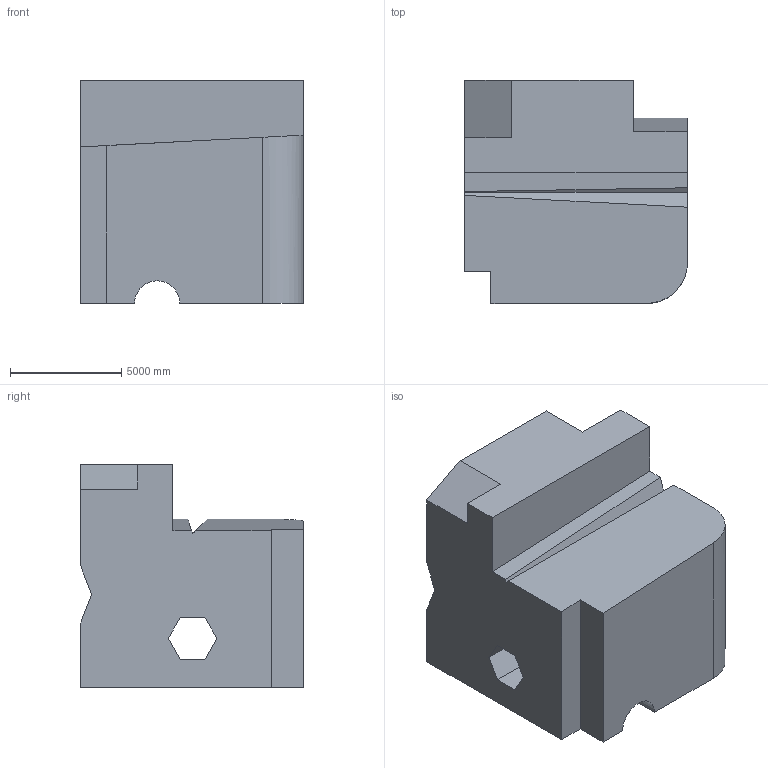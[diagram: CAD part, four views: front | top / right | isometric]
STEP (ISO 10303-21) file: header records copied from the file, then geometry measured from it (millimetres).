
FILE_DESCRIPTION (( 'STEP AP203' ), '1' );
FILE_NAME ('175.STEP', '2022-08-31T12:10:37', ( 'user' ), ( '' ), 'SwSTEP 2.0', 'SolidWorks 2021', '' );
FILE_SCHEMA (( 'CONFIG_CONTROL_DESIGN' ));
Length unit declared in the file: centimetre
Products named in the file (1): 175
Bounding box: 10000 x 10000 x 10000 mm (x, y, z)
Volume: 719344862220 mm3; surface area: 617903762.9 mm2
Topology: 1 solids, 1 shells, 29 faces, 81 edges, 54 vertices
Faces by surface type: plane 27, cylinder 2
Entity records: 999 total; most frequent: CARTESIAN_POINT 168, ORIENTED_EDGE 162, DIRECTION 143, EDGE_CURVE 81, LINE 77, VECTOR 77, VERTEX_POINT 54, AXIS2_PLACEMENT_3D 33
